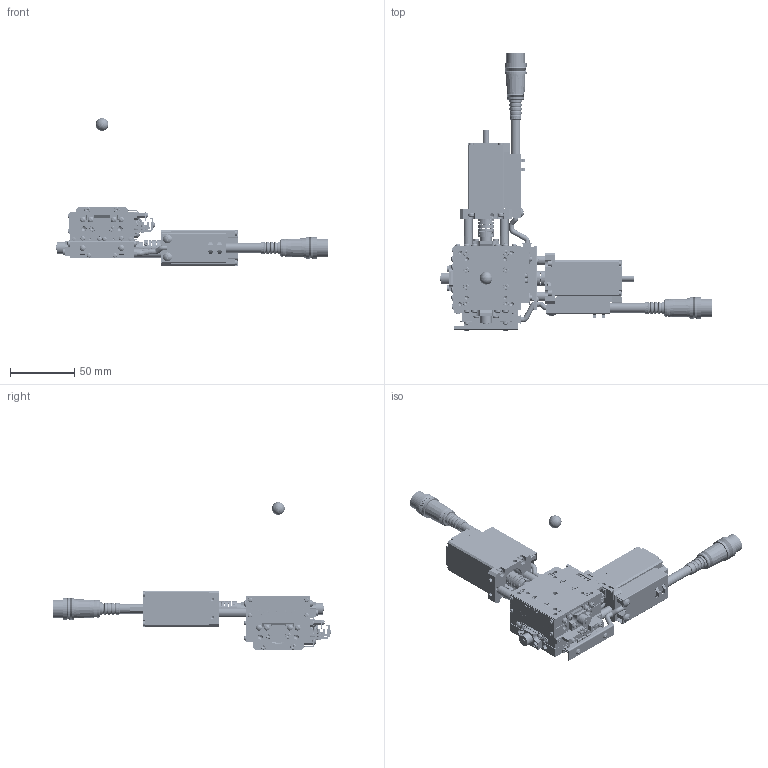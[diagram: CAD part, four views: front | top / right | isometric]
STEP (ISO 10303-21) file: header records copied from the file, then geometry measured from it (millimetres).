
FILE_DESCRIPTION (( 'STEP AP203' ), '1' );
FILE_NAME ('SA05B-RL02-RRR.STEP', '2019-02-26T08:37:41', ( '' ), ( '' ), 'SwSTEP 2.0', 'SolidWorks 2018', '' );
FILE_SCHEMA (( 'CONFIG_CONTROL_DESIGN' ));
Length unit declared in the file: millimetre
Products named in the file (12): second table; table; base-Part-3; second table-Part-3; second table-Part-2; base-Part-2; base; base-Part-1; rotation center; SA05B-RL02-RRR; table-Part-1; second table-Part-1
Assembly tree (11 placements, depth 3):
  SA05B-RL02-RRR
    table
      table-Part-1
    second table
      second table-Part-1
      second table-Part-2
      second table-Part-3
    base
      base-Part-1
      base-Part-2
      base-Part-3
    rotation center
Bounding box: 211 x 216.68 x 115 mm (x, y, z)
Volume: 216828.5 mm3; surface area: 95974.6 mm2
Topology: 8 solids, 20 shells, 5498 faces, 13790 edges, 8545 vertices
Faces by surface type: plane 3413, cylinder 1267, cone 452, torus 256, sphere 98, bspline 12
Entity records: 168188 total; most frequent: CARTESIAN_POINT 33063, DIRECTION 29001, ORIENTED_EDGE 27186, EDGE_CURVE 13593, AXIS2_PLACEMENT_3D 10220, VECTOR 8561, LINE 8561, VERTEX_POINT 8534
